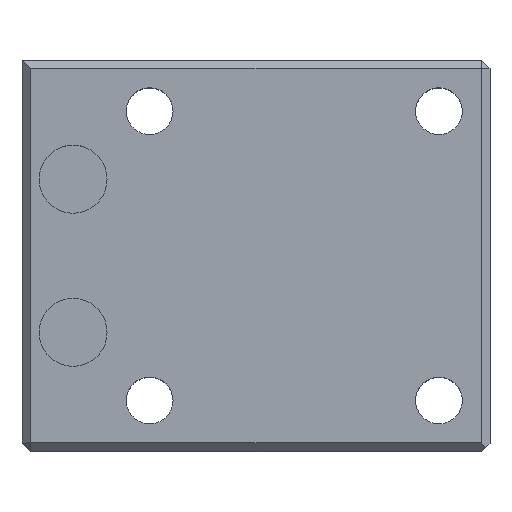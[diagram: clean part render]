
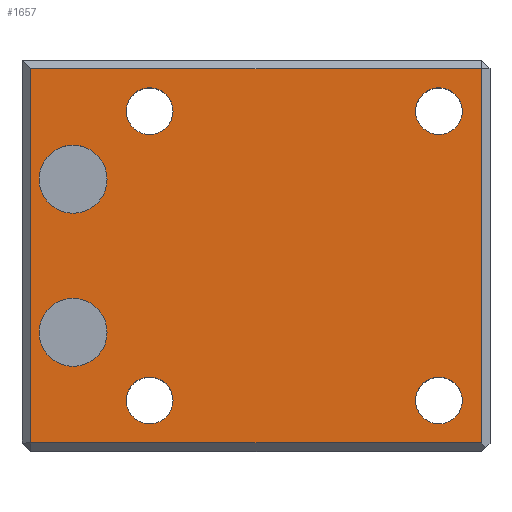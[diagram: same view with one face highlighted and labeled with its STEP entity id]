
A CAD part, top view. The second image highlights one B-rep face of the part: STEP entity #1657.
In plain terms, the highlighted planar face has unit normal (0, 0, 1).
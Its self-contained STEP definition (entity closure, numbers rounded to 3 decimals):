
#18 = CIRCLE ( 'NONE', #1207, 2.75 ) ;
#79 = PLANE ( 'NONE',  #963 ) ;
#80 = CARTESIAN_POINT ( 'NONE',  ( -26., 9., 78. ) ) ;
#86 = VERTEX_POINT ( 'NONE', #1716 ) ;
#87 = AXIS2_PLACEMENT_3D ( 'NONE', #346, #968, #1445 ) ;
#94 = VERTEX_POINT ( 'NONE', #1759 ) ;
#114 = VERTEX_POINT ( 'NONE', #969 ) ;
#116 = VERTEX_POINT ( 'NONE', #461 ) ;
#126 = VERTEX_POINT ( 'NONE', #1922 ) ;
#157 = CARTESIAN_POINT ( 'NONE',  ( -30., 9., 78. ) ) ;
#175 = VECTOR ( 'NONE', #1006, 1000. ) ;
#186 = AXIS2_PLACEMENT_3D ( 'NONE', #80, #1370, #467 ) ;
#193 = CARTESIAN_POINT ( 'NONE',  ( 23., -22., 78. ) ) ;
#202 = DIRECTION ( 'NONE',  ( 1., 0., 0. ) ) ;
#208 = VECTOR ( 'NONE', #2004, 1000. ) ;
#219 = AXIS2_PLACEMENT_3D ( 'NONE', #1265, #2052, #751 ) ;
#220 = ORIENTED_EDGE ( 'NONE', *, *, #787, .F. ) ;
#225 = LINE ( 'NONE', #249, #208 ) ;
#235 = CARTESIAN_POINT ( 'NONE',  ( -17., 17., 78. ) ) ;
#238 = AXIS2_PLACEMENT_3D ( 'NONE', #864, #1994, #1528 ) ;
#244 = VERTEX_POINT ( 'NONE', #988 ) ;
#249 = CARTESIAN_POINT ( 'NONE',  ( -32., 22., 78. ) ) ;
#261 = EDGE_CURVE ( 'NONE', #1382, #1035, #431, .T. ) ;
#277 = CIRCLE ( 'NONE', #1130, 4. ) ;
#298 = CARTESIAN_POINT ( 'NONE',  ( -26., 9., 78. ) ) ;
#315 = ORIENTED_EDGE ( 'NONE', *, *, #1301, .F. ) ;
#320 = EDGE_LOOP ( 'NONE', ( #220, #1129 ) ) ;
#345 = FACE_BOUND ( 'NONE', #1103, .T. ) ;
#346 = CARTESIAN_POINT ( 'NONE',  ( 17., 17., 78. ) ) ;
#351 = CARTESIAN_POINT ( 'NONE',  ( -22., 9., 78. ) ) ;
#356 = CARTESIAN_POINT ( 'NONE',  ( -31., -23., 78. ) ) ;
#360 = ORIENTED_EDGE ( 'NONE', *, *, #1503, .F. ) ;
#395 = VERTEX_POINT ( 'NONE', #428 ) ;
#397 = ORIENTED_EDGE ( 'NONE', *, *, #591, .F. ) ;
#420 = AXIS2_PLACEMENT_3D ( 'NONE', #1560, #782, #908 ) ;
#428 = CARTESIAN_POINT ( 'NONE',  ( 22., -22., 78. ) ) ;
#431 = CIRCLE ( 'NONE', #810, 2.75 ) ;
#461 = CARTESIAN_POINT ( 'NONE',  ( -30., -9., 78. ) ) ;
#467 = DIRECTION ( 'NONE',  ( 1., 0., 0. ) ) ;
#474 = ORIENTED_EDGE ( 'NONE', *, *, #569, .T. ) ;
#487 = CIRCLE ( 'NONE', #1425, 2.75 ) ;
#498 = CIRCLE ( 'NONE', #186, 4. ) ;
#507 = FACE_BOUND ( 'NONE', #848, .T. ) ;
#514 = DIRECTION ( 'NONE',  ( 0., 0., 1. ) ) ;
#534 = EDGE_CURVE ( 'NONE', #1035, #1382, #18, .T. ) ;
#546 = EDGE_CURVE ( 'NONE', #617, #1585, #997, .T. ) ;
#569 = EDGE_CURVE ( 'NONE', #1585, #395, #1471, .T. ) ;
#591 = EDGE_CURVE ( 'NONE', #86, #114, #1369, .T. ) ;
#597 = CIRCLE ( 'NONE', #1066, 2.75 ) ;
#617 = VERTEX_POINT ( 'NONE', #820 ) ;
#618 = VERTEX_POINT ( 'NONE', #1295 ) ;
#681 = VERTEX_POINT ( 'NONE', #1325 ) ;
#687 = ORIENTED_EDGE ( 'NONE', *, *, #546, .T. ) ;
#690 = ORIENTED_EDGE ( 'NONE', *, *, #985, .F. ) ;
#751 = DIRECTION ( 'NONE',  ( 1., 0., 0. ) ) ;
#772 = ORIENTED_EDGE ( 'NONE', *, *, #1773, .F. ) ;
#776 = EDGE_CURVE ( 'NONE', #932, #1968, #498, .T. ) ;
#782 = DIRECTION ( 'NONE',  ( 0., 0., 1. ) ) ;
#787 = EDGE_CURVE ( 'NONE', #618, #116, #1141, .T. ) ;
#810 = AXIS2_PLACEMENT_3D ( 'NONE', #1770, #846, #1286 ) ;
#814 = DIRECTION ( 'NONE',  ( 0., 0., 1. ) ) ;
#818 = DIRECTION ( 'NONE',  ( 1., 0., 0. ) ) ;
#820 = CARTESIAN_POINT ( 'NONE',  ( -31., 22., 78. ) ) ;
#826 = AXIS2_PLACEMENT_3D ( 'NONE', #298, #514, #1460 ) ;
#846 = DIRECTION ( 'NONE',  ( 0., 0., 1. ) ) ;
#848 = EDGE_LOOP ( 'NONE', ( #1225, #1923 ) ) ;
#856 = EDGE_CURVE ( 'NONE', #244, #1825, #1865, .T. ) ;
#857 = CIRCLE ( 'NONE', #826, 4. ) ;
#860 = FACE_BOUND ( 'NONE', #320, .T. ) ;
#864 = CARTESIAN_POINT ( 'NONE',  ( -17., -17., 78. ) ) ;
#885 = CIRCLE ( 'NONE', #238, 2.75 ) ;
#908 = DIRECTION ( 'NONE',  ( 1., 0., 0. ) ) ;
#926 = EDGE_LOOP ( 'NONE', ( #690, #1827 ) ) ;
#932 = VERTEX_POINT ( 'NONE', #157 ) ;
#963 = AXIS2_PLACEMENT_3D ( 'NONE', #1970, #1689, #1678 ) ;
#968 = DIRECTION ( 'NONE',  ( 0., 0., 1. ) ) ;
#969 = CARTESIAN_POINT ( 'NONE',  ( 14.25, 17., 78. ) ) ;
#973 = CARTESIAN_POINT ( 'NONE',  ( 17., 17., 78. ) ) ;
#985 = EDGE_CURVE ( 'NONE', #1968, #932, #857, .T. ) ;
#988 = CARTESIAN_POINT ( 'NONE',  ( -19.75, -17., 78. ) ) ;
#995 = DIRECTION ( 'NONE',  ( 1., 0., 0. ) ) ;
#997 = LINE ( 'NONE', #356, #1734 ) ;
#1006 = DIRECTION ( 'NONE',  ( 0., 1., 0. ) ) ;
#1009 = DIRECTION ( 'NONE',  ( 0., -1., 0. ) ) ;
#1022 = ORIENTED_EDGE ( 'NONE', *, *, #1933, .T. ) ;
#1035 = VERTEX_POINT ( 'NONE', #1355 ) ;
#1057 = FACE_BOUND ( 'NONE', #1735, .T. ) ;
#1066 = AXIS2_PLACEMENT_3D ( 'NONE', #973, #1605, #818 ) ;
#1097 = AXIS2_PLACEMENT_3D ( 'NONE', #235, #2016, #202 ) ;
#1103 = EDGE_LOOP ( 'NONE', ( #397, #1643 ) ) ;
#1129 = ORIENTED_EDGE ( 'NONE', *, *, #1595, .F. ) ;
#1130 = AXIS2_PLACEMENT_3D ( 'NONE', #1638, #814, #995 ) ;
#1141 = CIRCLE ( 'NONE', #219, 4. ) ;
#1167 = CARTESIAN_POINT ( 'NONE',  ( 17., -17., 78. ) ) ;
#1186 = FACE_BOUND ( 'NONE', #926, .T. ) ;
#1207 = AXIS2_PLACEMENT_3D ( 'NONE', #1167, #1462, #1950 ) ;
#1225 = ORIENTED_EDGE ( 'NONE', *, *, #261, .F. ) ;
#1248 = DIRECTION ( 'NONE',  ( 1., 0., 0. ) ) ;
#1265 = CARTESIAN_POINT ( 'NONE',  ( -26., -9., 78. ) ) ;
#1286 = DIRECTION ( 'NONE',  ( 1., 0., 0. ) ) ;
#1295 = CARTESIAN_POINT ( 'NONE',  ( -22., -9., 78. ) ) ;
#1301 = EDGE_CURVE ( 'NONE', #1825, #244, #885, .T. ) ;
#1306 = CARTESIAN_POINT ( 'NONE',  ( -31., -22., 78. ) ) ;
#1307 = DIRECTION ( 'NONE',  ( 1., 0., 0. ) ) ;
#1325 = CARTESIAN_POINT ( 'NONE',  ( 22., 22., 78. ) ) ;
#1328 = ORIENTED_EDGE ( 'NONE', *, *, #1668, .T. ) ;
#1355 = CARTESIAN_POINT ( 'NONE',  ( 14.25, -17., 78. ) ) ;
#1369 = CIRCLE ( 'NONE', #87, 2.75 ) ;
#1370 = DIRECTION ( 'NONE',  ( 0., 0., 1. ) ) ;
#1377 = CARTESIAN_POINT ( 'NONE',  ( -14.25, -17., 78. ) ) ;
#1382 = VERTEX_POINT ( 'NONE', #2074 ) ;
#1391 = CARTESIAN_POINT ( 'NONE',  ( -17., 17., 78. ) ) ;
#1421 = ORIENTED_EDGE ( 'NONE', *, *, #856, .F. ) ;
#1425 = AXIS2_PLACEMENT_3D ( 'NONE', #1391, #2031, #1248 ) ;
#1445 = DIRECTION ( 'NONE',  ( 1., 0., 0. ) ) ;
#1448 = CARTESIAN_POINT ( 'NONE',  ( 22., 23., 78. ) ) ;
#1460 = DIRECTION ( 'NONE',  ( 1., 0., 0. ) ) ;
#1461 = FACE_OUTER_BOUND ( 'NONE', #2084, .T. ) ;
#1462 = DIRECTION ( 'NONE',  ( 0., 0., 1. ) ) ;
#1471 = LINE ( 'NONE', #193, #1913 ) ;
#1503 = EDGE_CURVE ( 'NONE', #126, #94, #487, .T. ) ;
#1528 = DIRECTION ( 'NONE',  ( 1., 0., 0. ) ) ;
#1560 = CARTESIAN_POINT ( 'NONE',  ( -17., -17., 78. ) ) ;
#1585 = VERTEX_POINT ( 'NONE', #1306 ) ;
#1595 = EDGE_CURVE ( 'NONE', #116, #618, #277, .T. ) ;
#1605 = DIRECTION ( 'NONE',  ( 0., 0., 1. ) ) ;
#1635 = EDGE_LOOP ( 'NONE', ( #315, #1421 ) ) ;
#1638 = CARTESIAN_POINT ( 'NONE',  ( -26., -9., 78. ) ) ;
#1643 = ORIENTED_EDGE ( 'NONE', *, *, #2035, .F. ) ;
#1657 = ADVANCED_FACE ( 'NONE', ( #1461, #1949, #507, #345, #1057, #1186, #860 ), #79, .T. ) ;
#1668 = EDGE_CURVE ( 'NONE', #681, #617, #225, .T. ) ;
#1678 = DIRECTION ( 'NONE',  ( 1., 0., 0. ) ) ;
#1689 = DIRECTION ( 'NONE',  ( 0., 0., 1. ) ) ;
#1716 = CARTESIAN_POINT ( 'NONE',  ( 19.75, 17., 78. ) ) ;
#1734 = VECTOR ( 'NONE', #1009, 1000. ) ;
#1735 = EDGE_LOOP ( 'NONE', ( #360, #772 ) ) ;
#1759 = CARTESIAN_POINT ( 'NONE',  ( -19.75, 17., 78. ) ) ;
#1770 = CARTESIAN_POINT ( 'NONE',  ( 17., -17., 78. ) ) ;
#1773 = EDGE_CURVE ( 'NONE', #94, #126, #1828, .T. ) ;
#1796 = LINE ( 'NONE', #1448, #175 ) ;
#1825 = VERTEX_POINT ( 'NONE', #1377 ) ;
#1827 = ORIENTED_EDGE ( 'NONE', *, *, #776, .F. ) ;
#1828 = CIRCLE ( 'NONE', #1097, 2.75 ) ;
#1865 = CIRCLE ( 'NONE', #420, 2.75 ) ;
#1913 = VECTOR ( 'NONE', #1307, 1000. ) ;
#1922 = CARTESIAN_POINT ( 'NONE',  ( -14.25, 17., 78. ) ) ;
#1923 = ORIENTED_EDGE ( 'NONE', *, *, #534, .F. ) ;
#1933 = EDGE_CURVE ( 'NONE', #395, #681, #1796, .T. ) ;
#1949 = FACE_BOUND ( 'NONE', #1635, .T. ) ;
#1950 = DIRECTION ( 'NONE',  ( 1., 0., 0. ) ) ;
#1968 = VERTEX_POINT ( 'NONE', #351 ) ;
#1970 = CARTESIAN_POINT ( 'NONE',  ( 0., 0., 78. ) ) ;
#1994 = DIRECTION ( 'NONE',  ( 0., 0., 1. ) ) ;
#2004 = DIRECTION ( 'NONE',  ( -1., 0., 0. ) ) ;
#2016 = DIRECTION ( 'NONE',  ( 0., 0., 1. ) ) ;
#2031 = DIRECTION ( 'NONE',  ( 0., 0., 1. ) ) ;
#2035 = EDGE_CURVE ( 'NONE', #114, #86, #597, .T. ) ;
#2052 = DIRECTION ( 'NONE',  ( 0., 0., 1. ) ) ;
#2074 = CARTESIAN_POINT ( 'NONE',  ( 19.75, -17., 78. ) ) ;
#2084 = EDGE_LOOP ( 'NONE', ( #1022, #1328, #687, #474 ) ) ;
